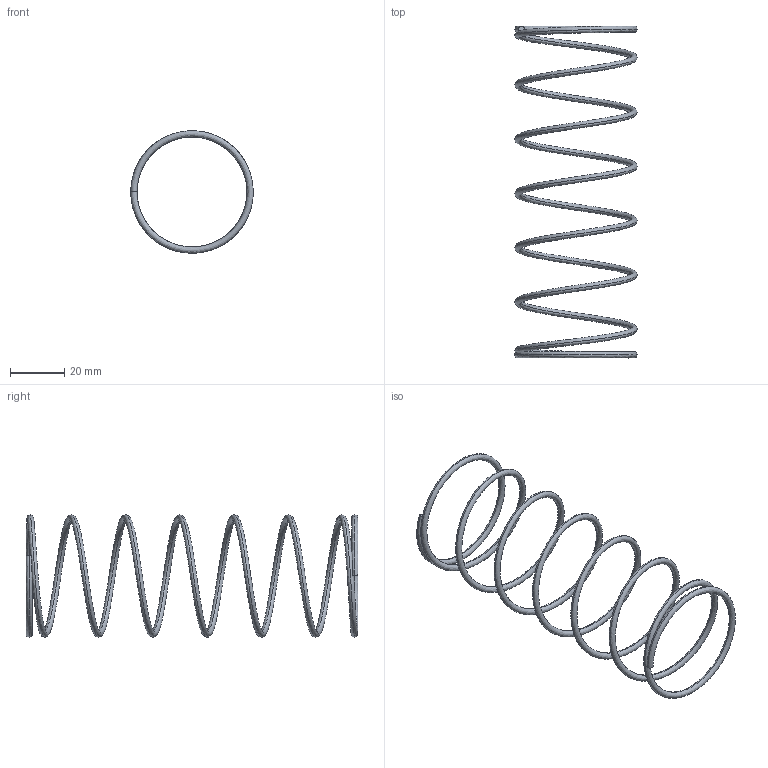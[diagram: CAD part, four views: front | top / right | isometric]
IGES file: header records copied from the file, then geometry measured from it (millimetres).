
Global section: file name: SPK40120.ipt; native system: Autodesk Inventor 2021; preprocessor: unknown; author: SM; date: 20211217.130106; units: millimetre
Bounding box: 45.1 x 122.3 x 45.1 mm (x, y, z)
Volume: 4492.5 mm3; surface area: 7817 mm2
Topology: 1 solids, 1 shells, 4 faces, 12 edges, 8 vertices
Faces by surface type: bspline 2, plane 2
